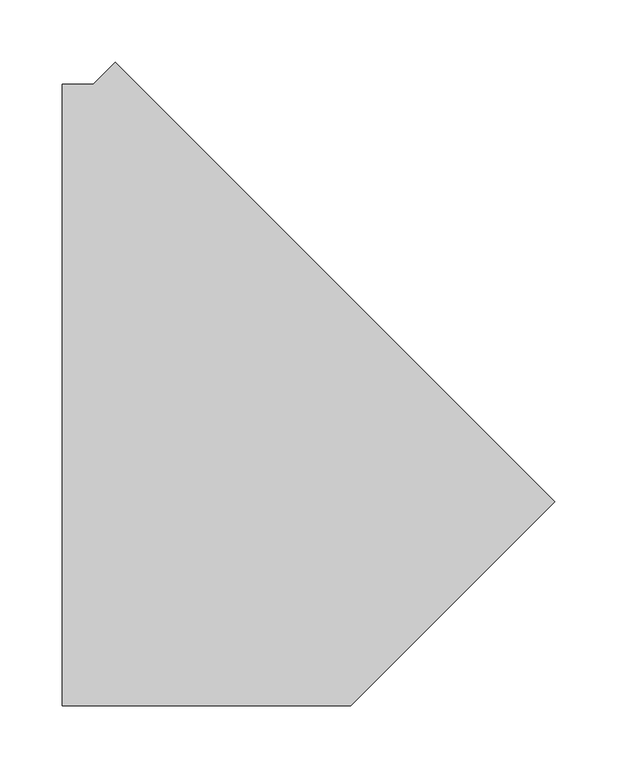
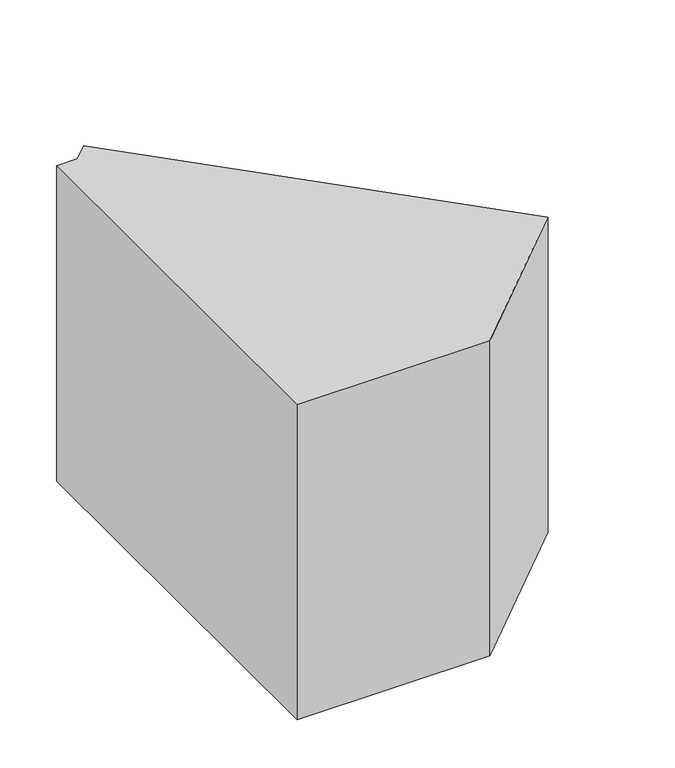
"""IFC4 building model written with IfcOpenShell, lengths in millimetres: duct fitting geometry, 2017_Codo_Climaver_Codo-Rectangular-Biselado : Codo_Rectangular_Biselado_Climaver."""

from ifc_helpers import new_model, si_unit, frame, origin, place, context, project, spatial, polyline, outline, extrude, source, transform, mapped, element, save


def duct_fitting_861f08ad(model_context):
    return source(origin(), model_context, "Body", "SweptSolid", [
        extrude(outline(polyline([(-128.5533906, -250.0), (-128.5533906, 250.0), (-103.5533906, 250.0), (-85.8757211, 267.6776695), (267.6776695, -85.8757211), (103.5533906, -250.0), (-128.5533906, -250.0)])), frame((0.0, 0.0, -200.0), z_axis=(0.0, 0.0, 1.0), x_axis=(1.0, 0.0, 0.0)), (0.0, 0.0, 1.0), 400.0),
    ])


if __name__ == "__main__":
    model = new_model("IFC4")
    model_context = context("Model", 3, world=origin())
    ifc_project = project(units=[si_unit("LENGTHUNIT", "METRE", prefix="MILLI")], contexts=[model_context])
    site = spatial("IfcSite", under=ifc_project)
    building = spatial("IfcBuilding", under=site)
    placement = place(None, origin())
    duct_fitting_shape = duct_fitting_861f08ad(model_context)
    element("IfcDuctFitting", 1, ObjectType="2017_Codo_Climaver_Codo-Rectangular-Biselado : Codo_Rectangular_Biselado_Climaver", at=placement, inside=building, context=model_context, shape_type="MappedRepresentation", body=[
        mapped(duct_fitting_shape, transform((0.0, 0.0, 0.0), x_axis=(1.0, 0.0, 0.0), y_axis=(0.0, 1.0, 0.0), z_axis=(0.0, 0.0, 1.0))),
    ])
    save(model, "model.ifc")
